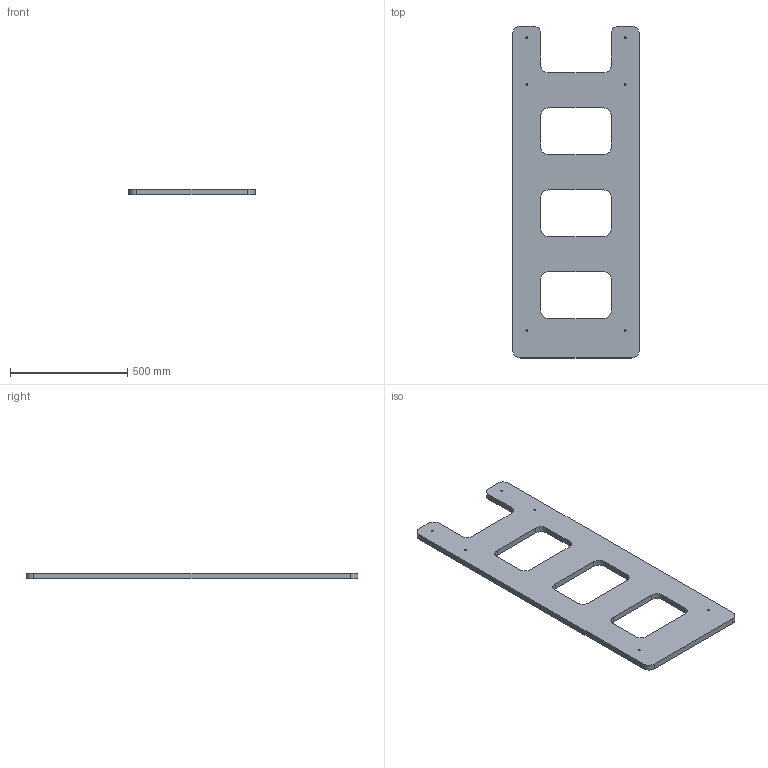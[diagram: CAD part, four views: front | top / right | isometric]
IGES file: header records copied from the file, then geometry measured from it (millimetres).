
Start section: 3D InterOp IGES (Version 23 0 1), Spatial Corp. Copyright (c) 1999-2007.
Global section: file name: Echelle.igs; native system: Spatial Corp.; preprocessor: 3D InterOp GENERIC/IGES 3.0; author: Noname; organization: Noname; date: 20130608.083742; units: millimetre
Bounding box: 540 x 1418 x 25 mm (x, y, z)
Surface area: 1234013.3 mm2 (no closed solid volume)
Topology: 0 solids, 0 shells, 60 faces, 312 edges, 312 vertices
Faces by surface type: revolution 32, extrusion 28
